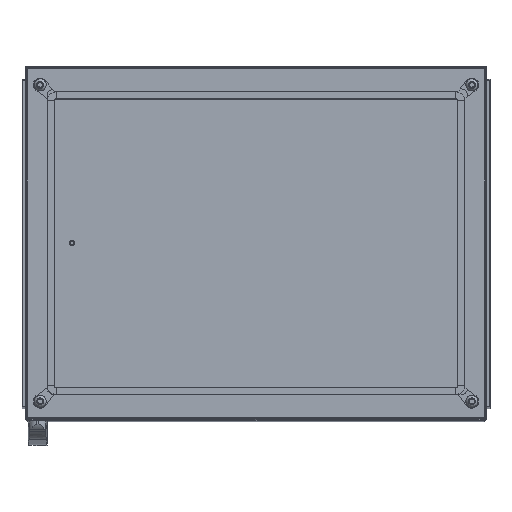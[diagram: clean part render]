
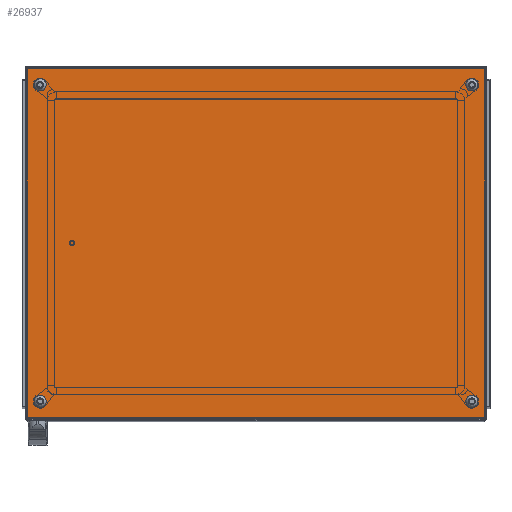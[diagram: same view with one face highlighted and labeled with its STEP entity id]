
A CAD part, top view. The second image highlights one B-rep face of the part: STEP entity #26937.
In plain terms, the highlighted planar face has unit normal (0, 0, 1).
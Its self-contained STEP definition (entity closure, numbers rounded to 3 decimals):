
#1335=CIRCLE('',#28934,6.);
#1336=CIRCLE('',#28935,6.);
#1337=CIRCLE('',#28936,6.);
#1338=CIRCLE('',#28937,6.);
#5091=ORIENTED_EDGE('',*,*,#11485,.F.);
#5092=ORIENTED_EDGE('',*,*,#11486,.F.);
#5093=ORIENTED_EDGE('',*,*,#11487,.F.);
#5094=ORIENTED_EDGE('',*,*,#11488,.F.);
#5095=ORIENTED_EDGE('',*,*,#11474,.T.);
#5096=ORIENTED_EDGE('',*,*,#11482,.T.);
#5097=ORIENTED_EDGE('',*,*,#11445,.F.);
#5098=ORIENTED_EDGE('',*,*,#11489,.F.);
#11445=EDGE_CURVE('',#14877,#14878,#17565,.T.);
#11474=EDGE_CURVE('',#14899,#14898,#17571,.T.);
#11482=EDGE_CURVE('',#14898,#14878,#17576,.T.);
#11485=EDGE_CURVE('',#14900,#14900,#1335,.T.);
#11486=EDGE_CURVE('',#14901,#14901,#1336,.T.);
#11487=EDGE_CURVE('',#14902,#14902,#1337,.T.);
#11488=EDGE_CURVE('',#14903,#14903,#1338,.T.);
#11489=EDGE_CURVE('',#14899,#14877,#17579,.T.);
#14877=VERTEX_POINT('',#42065);
#14878=VERTEX_POINT('',#42067);
#14898=VERTEX_POINT('',#42141);
#14899=VERTEX_POINT('',#42143);
#14900=VERTEX_POINT('',#42160);
#14901=VERTEX_POINT('',#42162);
#14902=VERTEX_POINT('',#42164);
#14903=VERTEX_POINT('',#42166);
#17565=LINE('',#42066,#19910);
#17571=LINE('',#42142,#19916);
#17576=LINE('',#42154,#19921);
#17579=LINE('',#42167,#19924);
#19910=VECTOR('',#33714,1000.);
#19916=VECTOR('',#33768,1000.);
#19921=VECTOR('',#33785,1000.);
#19924=VECTOR('',#33800,1000.);
#21953=EDGE_LOOP('',(#5091));
#21954=EDGE_LOOP('',(#5092));
#21955=EDGE_LOOP('',(#5093));
#21956=EDGE_LOOP('',(#5094));
#21957=EDGE_LOOP('',(#5095,#5096,#5097,#5098));
#24160=FACE_BOUND('',#21953,.T.);
#24161=FACE_BOUND('',#21954,.T.);
#24162=FACE_BOUND('',#21955,.T.);
#24163=FACE_BOUND('',#21956,.T.);
#24164=FACE_BOUND('',#21957,.T.);
#26024=PLANE('',#28933);
#26937=ADVANCED_FACE('',(#24160,#24161,#24162,#24163,#24164),#26024,.T.);
#28933=AXIS2_PLACEMENT_3D('',#42158,#33790,#33791);
#28934=AXIS2_PLACEMENT_3D('',#42159,#33792,#33793);
#28935=AXIS2_PLACEMENT_3D('',#42161,#33794,#33795);
#28936=AXIS2_PLACEMENT_3D('',#42163,#33796,#33797);
#28937=AXIS2_PLACEMENT_3D('',#42165,#33798,#33799);
#33714=DIRECTION('',(-1.,0.,0.));
#33768=DIRECTION('',(-1.,0.,0.));
#33785=DIRECTION('',(0.,-1.,0.));
#33790=DIRECTION('',(0.,0.,1.));
#33791=DIRECTION('',(1.,0.,0.));
#33792=DIRECTION('',(0.,0.,1.));
#33793=DIRECTION('',(1.,0.,0.));
#33794=DIRECTION('',(0.,0.,1.));
#33795=DIRECTION('',(1.,0.,0.));
#33796=DIRECTION('',(0.,0.,1.));
#33797=DIRECTION('',(1.,0.,0.));
#33798=DIRECTION('',(0.,0.,1.));
#33799=DIRECTION('',(1.,0.,0.));
#33800=DIRECTION('',(0.,-1.,0.));
#42065=CARTESIAN_POINT('',(396.5,-302.5,20.));
#42066=CARTESIAN_POINT('',(400.,-302.5,20.));
#42067=CARTESIAN_POINT('',(-396.5,-302.5,20.));
#42141=CARTESIAN_POINT('',(-396.5,302.5,20.));
#42142=CARTESIAN_POINT('',(400.,302.5,20.));
#42143=CARTESIAN_POINT('',(396.5,302.5,20.));
#42154=CARTESIAN_POINT('',(-396.5,305.5,20.));
#42158=CARTESIAN_POINT('',(-396.5,-302.5,20.));
#42159=CARTESIAN_POINT('',(374.5,-274.5,20.));
#42160=CARTESIAN_POINT('',(380.5,-274.5,20.));
#42161=CARTESIAN_POINT('',(-374.5,274.5,20.));
#42162=CARTESIAN_POINT('',(-368.5,274.5,20.));
#42163=CARTESIAN_POINT('',(374.5,274.5,20.));
#42164=CARTESIAN_POINT('',(380.5,274.5,20.));
#42165=CARTESIAN_POINT('',(-374.5,-274.5,20.));
#42166=CARTESIAN_POINT('',(-368.5,-274.5,20.));
#42167=CARTESIAN_POINT('',(396.5,305.5,20.));
